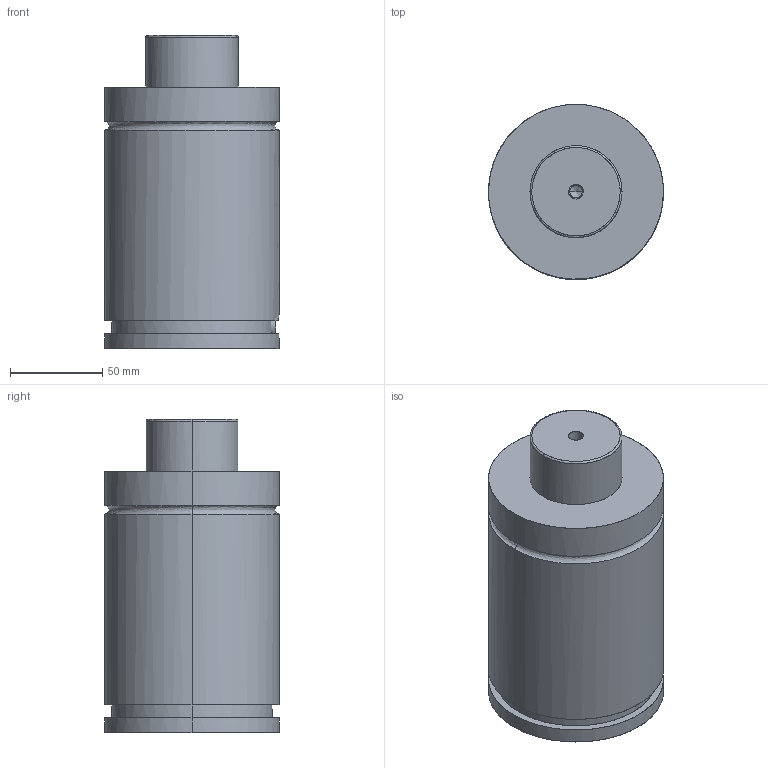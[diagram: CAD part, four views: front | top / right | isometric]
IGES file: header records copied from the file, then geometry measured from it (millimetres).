
Global section: file name: E:\UnigraphicsGraphicData\MISUMI_PRESS-PARTS\IGES\3d_gse95-25_03849_r00.igs; native system: NX V5.0; preprocessor: UGS NX IGES V5.0; author: MISUMI; date: 20110105.160803; units: millimetre
Bounding box: 95 x 95 x 170 mm (x, y, z)
Surface area: 66250.2 mm2 (no closed solid volume)
Topology: 0 solids, 0 shells, 75 faces, 604 edges, 602 vertices
Faces by surface type: bspline 75
